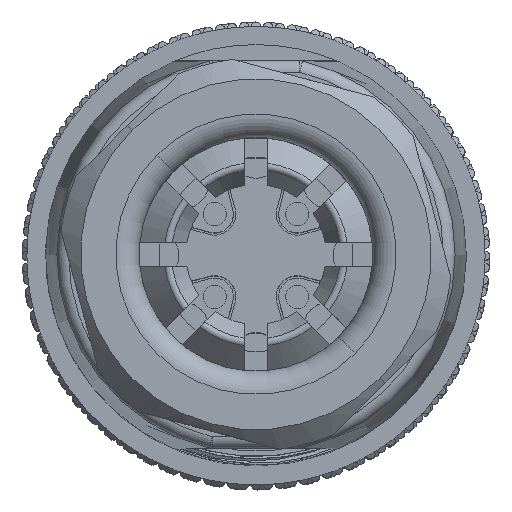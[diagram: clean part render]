
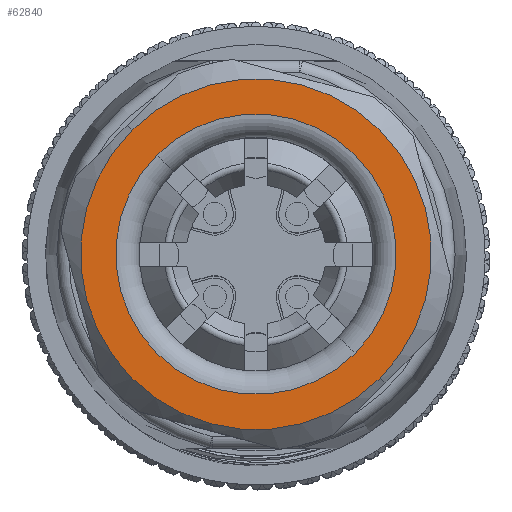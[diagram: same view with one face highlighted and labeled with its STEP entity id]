
A CAD part, top view. The second image highlights one B-rep face of the part: STEP entity #62840.
In plain terms, the highlighted planar face has unit normal (0, 0, 1).
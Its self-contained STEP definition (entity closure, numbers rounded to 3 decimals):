
#26432=CARTESIAN_POINT('',(0.,0.,
38.818));
#26433=DIRECTION('',(0.,0.,-1.));
#26434=DIRECTION('',(0.707,-0.707,0.));
#26435=AXIS2_PLACEMENT_3D('',#26432,#26433,#26434);
#26437=CARTESIAN_POINT('',(0.,0.,
38.818));
#26438=DIRECTION('',(0.,0.,-1.));
#26439=DIRECTION('',(-0.707,0.707,0.));
#26440=AXIS2_PLACEMENT_3D('',#26437,#26438,#26439);
#26442=CARTESIAN_POINT('',(0.,0.,
38.818));
#26443=DIRECTION('',(0.,0.,1.));
#26444=DIRECTION('',(-0.707,0.707,0.));
#26445=AXIS2_PLACEMENT_3D('',#26442,#26443,#26444);
#26447=CARTESIAN_POINT('',(0.,0.,
38.818));
#26448=DIRECTION('',(0.,0.,1.));
#26449=DIRECTION('',(0.707,-0.707,0.));
#26450=AXIS2_PLACEMENT_3D('',#26447,#26448,#26449);
#35397=CARTESIAN_POINT('',(4.243,-4.243,
38.818));
#35398=CARTESIAN_POINT('',(-4.243,4.243,
38.818));
#35399=VERTEX_POINT('',#35397);
#35400=VERTEX_POINT('',#35398);
#35401=CARTESIAN_POINT('',(5.308,-5.308,
38.818));
#35403=VERTEX_POINT('',#35401);
#35405=CARTESIAN_POINT('',(-5.308,5.308,
38.818));
#35407=VERTEX_POINT('',#35405);
#62825=CARTESIAN_POINT('',(0.,0.,
38.818));
#62826=DIRECTION('',(0.,0.,-1.));
#62827=DIRECTION('',(0.707,-0.707,0.));
#62828=AXIS2_PLACEMENT_3D('',#62825,#62826,#62827);
#62829=PLANE('',#62828);
#62831=ORIENTED_EDGE('',*,*,#62830,.F.);
#62833=ORIENTED_EDGE('',*,*,#62832,.F.);
#62834=EDGE_LOOP('',(#62831,#62833));
#62835=FACE_OUTER_BOUND('',#62834,.F.);
#62836=ORIENTED_EDGE('',*,*,#62818,.F.);
#62837=ORIENTED_EDGE('',*,*,#62804,.F.);
#62838=EDGE_LOOP('',(#62836,#62837));
#62839=FACE_BOUND('',#62838,.F.);
#62840=ADVANCED_FACE('',(#62835,#62839),#62829,.F.);
#26436=CIRCLE('',#26435,6.);
#26441=CIRCLE('',#26440,6.);
#26446=CIRCLE('',#26445,7.507);
#26451=CIRCLE('',#26450,7.507);
#62804=EDGE_CURVE('',#35400,#35399,#26441,.T.);
#62818=EDGE_CURVE('',#35399,#35400,#26436,.T.);
#62830=EDGE_CURVE('',#35407,#35403,#26446,.T.);
#62832=EDGE_CURVE('',#35403,#35407,#26451,.T.);
